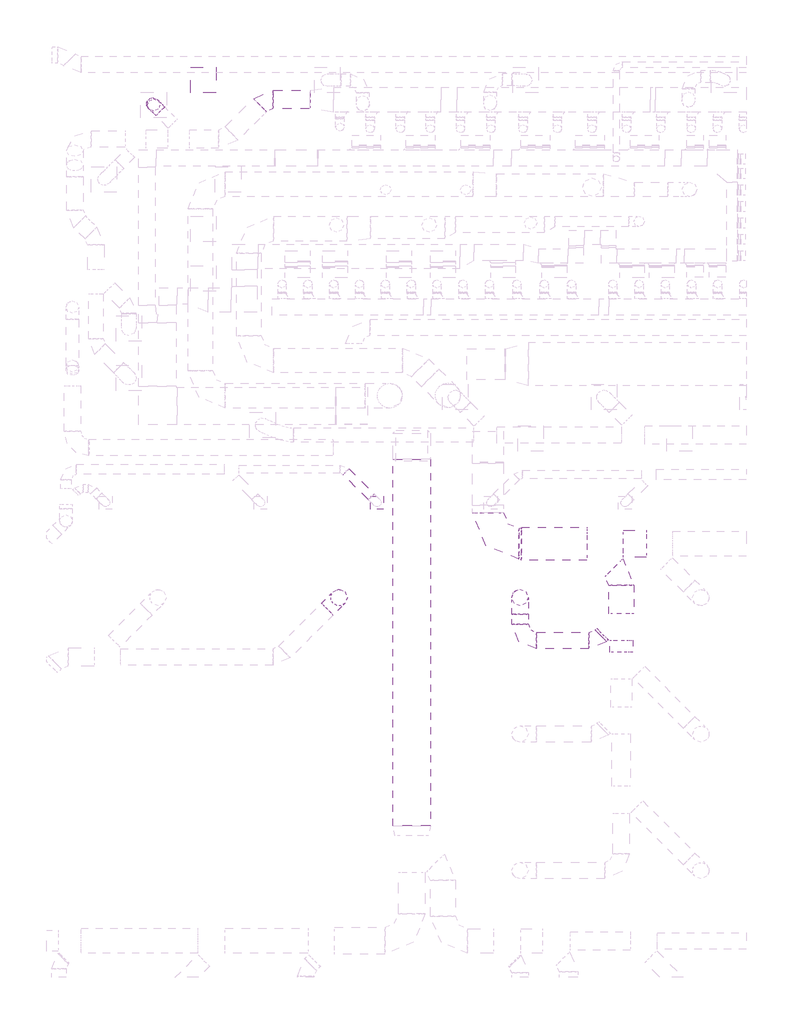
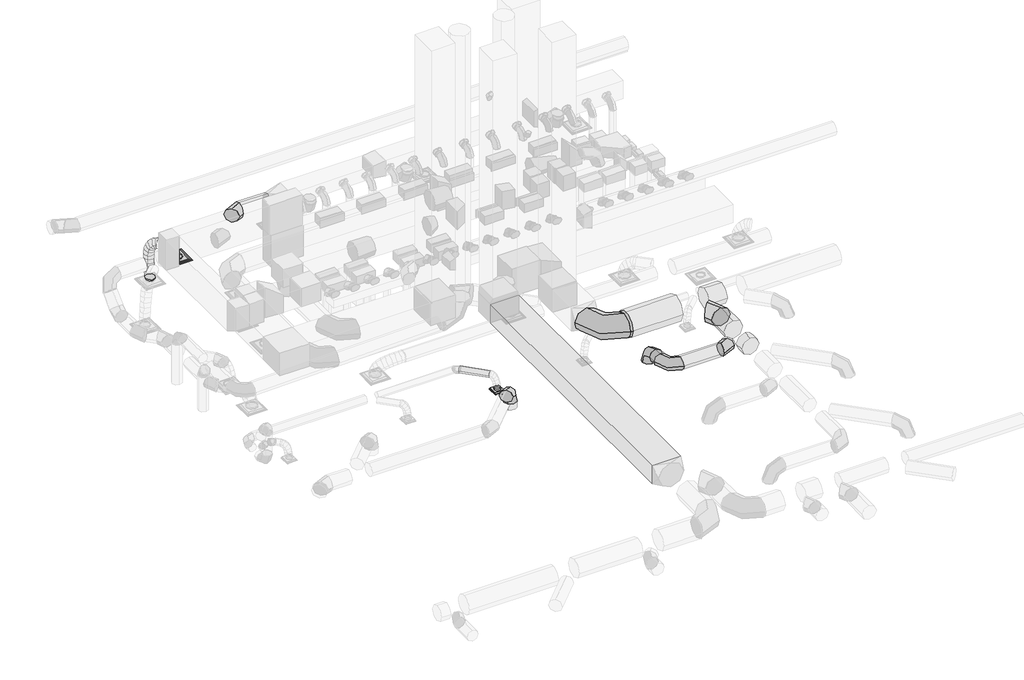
# One storey, part 17 of 33: 13 duct segments, 9 duct fittings, 2 air terminals.
"""IFC4 building model written with IfcOpenShell, lengths in millimetres."""

from ifc_helpers import new_model, si_unit, point, frame, frame_2d, origin, place, context, project, spatial, polyline, circle_curve, ellipse_curve, trimmed, segment, composite_curve, outline, extrude, transform, mapped, element, save
from ifc_brep_helpers import plane_surface, cylinder_surface, advanced_brep
from components import air_terminal_7f3dec8e, air_terminal_0721d01d, round_elbow_1_d_30de4f45, round_elbow_1_d_8aca8b6e, round_elbow_1_d_755a5f0f, round_elbow_1_d_6b09a4cd, round_elbow_1_d_d483edfb, round_transition_angle_45_degree_4f060a6f, round_transition_angle_45_degree_e02685fd

model = new_model("IFC4")

# Units and contexts
model_context = context("Model", 3, world=origin())
ifc_project = project(units=[si_unit("LENGTHUNIT", "METRE", prefix="MILLI")], contexts=[model_context])

# Site, building, storey
site = spatial("IfcSite", under=ifc_project)
building = spatial("IfcBuilding", under=site)
storey = spatial("IfcBuildingStorey", under=building, Name="T.O. SLAB - 1ST", Elevation=-25.4)

# Air terminals
placement = place(None, origin())
air_terminal_shape = air_terminal_7f3dec8e(model_context)
element("IfcAirTerminal", 1, ObjectType="Titus-Round_Neck_Return_Diffuser-PAR_Surface_Mount : PAR AA-12_24x24 - CRGT", at=placement, inside=storey, context=model_context, shape_type="MappedRepresentation", body=[
    mapped(air_terminal_shape, transform((13284.2, 30772.0034288, 2717.8), x_axis=(-1.0, 0.0, 0.0), y_axis=(0.0, 1.0, 0.0), z_axis=(0.0, 0.0, -1.0))),
])
air_terminal_2_shape = air_terminal_0721d01d(model_context)
element("IfcAirTerminal", 2, ObjectType="Titus-Round_Neck_Supply_Diffuser-PCS_Surface_Mount : PCS AA-08_12x12", at=placement, inside=storey, context=model_context, shape_type="MappedRepresentation", body=[
    mapped(air_terminal_2_shape, transform((17557.721449, 20392.8311449, 3022.6), x_axis=(1.0, 0.0, 0.0), y_axis=(0.0, -1.0, 0.0), z_axis=(0.0, 0.0, -1.0))),
])

# Duct fittings
round_elbow_1_d_shape = round_elbow_1_d_30de4f45(model_context)
element("IfcDuctFitting", 3, ObjectType="Round Elbow : 1 D", at=placement, inside=storey, context=model_context, shape_type="MappedRepresentation", body=[
    mapped(round_elbow_1_d_shape, transform((22938.3982152, 17003.0211559, 4635.5), x_axis=(1.0, 0.0, 0.0), y_axis=(0.0, 1.0, 0.0), z_axis=(0.0, 0.0, 1.0))),
])
round_elbow_1_d_2_shape = round_elbow_1_d_8aca8b6e(model_context)
element("IfcDuctFitting", 4, ObjectType="Round Elbow : 1 D", at=placement, inside=storey, context=model_context, shape_type="MappedRepresentation", body=[
    mapped(round_elbow_1_d_2_shape, transform((21071.7804612, 18061.9197891, 4635.5), x_axis=(0.0, 0.0, 1.0), y_axis=(0.0, -1.0, 0.0), z_axis=(1.0, 0.0, 0.0))),
])
element("IfcDuctFitting", 5, ObjectType="Round Elbow : 1 D", at=placement, inside=storey, context=model_context, shape_type="MappedRepresentation", body=[
    mapped(round_elbow_1_d_2_shape, transform((21071.7804612, 17003.0211559, 4635.5), x_axis=(0.0, -1.0, 0.0), y_axis=(1.0, 0.0, 0.0), z_axis=(0.0, 0.0, 1.0))),
])
element("IfcDuctFitting", 6, ObjectType="Round Elbow : 1 D", at=placement, inside=storey, context=model_context, shape_type="MappedRepresentation", body=[
    mapped(round_elbow_1_d_2_shape, transform((16621.8175987, 18061.5737715, 4832.35), x_axis=(0.0, 0.0, 1.0), y_axis=(-0.707395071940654, -0.7068183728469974, 0.0), z_axis=(0.7068183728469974, -0.707395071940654, 0.0))),
])
round_elbow_1_d_3_shape = round_elbow_1_d_755a5f0f(model_context)
element("IfcDuctFitting", 7, ObjectType="Round Elbow : 1 D", at=placement, inside=storey, context=model_context, shape_type="MappedRepresentation", body=[
    mapped(round_elbow_1_d_3_shape, transform((23561.0182719, 18618.9835275, 4635.5), x_axis=(0.0, 1.0, 0.0), y_axis=(-1.0, 0.0, 0.0), z_axis=(0.0, 0.0, 1.0))),
])
round_elbow_1_d_4_shape = round_elbow_1_d_6b09a4cd(model_context)
element("IfcDuctFitting", 8, ObjectType="Round Elbow : 1 D", at=placement, inside=storey, context=model_context, shape_type="MappedRepresentation", body=[
    mapped(round_elbow_1_d_4_shape, transform((14811.7361437, 30294.4408687, 4038.6), x_axis=(-1.0, 0.0, 0.0), y_axis=(0.0, -1.0, 0.0), z_axis=(0.0, 0.0, 1.0))),
])
round_elbow_1_d_5_shape = round_elbow_1_d_d483edfb(model_context)
element("IfcDuctFitting", 9, ObjectType="Round Elbow : 1 D", at=placement, inside=storey, context=model_context, shape_type="MappedRepresentation", body=[
    mapped(round_elbow_1_d_5_shape, transform((20284.198873, 19383.49798, 4635.5), x_axis=(0.002214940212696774, -0.9999975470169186, 0.0), y_axis=(0.9999975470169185, 0.0022149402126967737, 0.0), z_axis=(0.0, 0.0, 0.9999999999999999))),
])
round_transition_angle_45_degree_shape = round_transition_angle_45_degree_4f060a6f(model_context)
element("IfcDuctFitting", 10, ObjectType="Round Transition - Angle : 45 Degree", at=placement, inside=storey, context=model_context, shape_type="MappedRepresentation", body=[
    mapped(round_transition_angle_45_degree_shape, transform((12065.0, 30162.4034288, 2806.7), x_axis=(0.0, 0.0, 1.0), y_axis=(-1.0, 0.0, 0.0), z_axis=(0.0, -1.0, 0.0))),
])
round_transition_angle_45_degree_2_shape = round_transition_angle_45_degree_e02685fd(model_context)
element("IfcDuctFitting", 11, ObjectType="Round Transition - Angle : 45 Degree", at=placement, inside=storey, context=model_context, shape_type="MappedRepresentation", body=[
    mapped(round_transition_angle_45_degree_2_shape, transform((21105.8339781, 19383.49798, 4635.5), x_axis=(-1.0, 0.0, 0.0), y_axis=(0.0, -1.0, 0.0), z_axis=(0.0, 0.0, 1.0))),
])

# Duct segments
element("IfcDuctSegment", 12, ObjectType="Flex - Round", at=placement, inside=storey, context=model_context, shape_type="AdvancedBrep", body=[
    advanced_brep(
    [(12120.9902656, 29899.8088333, 4038.6), (12228.753339, 30007.5719068, 3886.2), (12336.5164125, 30115.3349802, 4038.6), (12228.753339, 30007.5719068, 4191.0), (12100.6767842, 29920.1223147, 4038.6), (12223.0092314, 30013.3160144, 3886.2), (12315.9671739, 30135.8842188, 4038.6), (12193.6347266, 30042.6905192, 4191.0), (11958.0746558, 30053.8090884, 2868.0210245), (11956.4056596, 30269.328773, 2868.0210245), (12171.9253442, 30270.9977692, 2868.0210245), (12173.5943404, 30055.4780846, 2868.0210245), (12054.2251229, 29966.3673415, 4020.3948839), (12209.6132642, 30026.6523912, 3880.9499157), (12268.9933603, 30182.6490751, 4020.1902445), (12113.605219, 30122.3640254, 4159.6352127), (12004.7516364, 30015.2739159, 3969.1833958), (12193.1505036, 30042.9265066, 3863.908819), (12219.0222988, 30232.0475229, 3968.4637014), (12030.6234315, 30204.3949323, 4073.7382782), (11970.2578037, 30048.9196536, 3890.0311923), (12177.1303669, 30058.5527585, 3827.1477801), (12184.2683386, 30265.9469924, 3888.7145893), (11977.3957754, 30256.3138875, 3951.5980015), (11948.4489267, 30069.6780759, 3787.9664381), (12161.8678492, 30073.0801359, 3755.7197503), (12162.3792865, 30286.781728, 3786.2746188), (11948.960364, 30283.379668, 3818.5213066), (11937.0597275, 30079.8950859, 3668.1793872), (12152.3298222, 30081.6364985, 3655.4025895), (12150.9735287, 30297.0135924, 3666.313411), (11935.703434, 30295.2721798, 3679.0902087), (11933.7906761, 30081.951021, 3535.8790858), (12149.3588254, 30083.5049844, 3535.1647204), (12147.7037036, 30299.0700141, 3533.9817952), (11932.1355543, 30297.5160507, 3534.6961606), (11936.3265686, 30078.2417465, 3396.2606984), (12151.7643639, 30079.9863799, 3402.7232179), (12150.2381235, 30295.3628936, 3394.444482), (11934.8003282, 30293.6182601, 3387.9819625), (11942.3469201, 30071.1683016, 3254.5056139), (12157.6327504, 30073.0914821, 3264.5462998), (12156.2503819, 30288.2989574, 3252.8799577), (11940.9645516, 30286.3757768, 3242.8392718), (11949.5293192, 30063.1336139, 3115.7817209), (12164.7949583, 30065.0793815, 3126.2123858), (12163.4159984, 30280.2830437, 3114.480209), (11948.1503593, 30278.3372762, 3104.0495441), (11955.5493852, 30056.5426659, 2985.2419247), (12170.9584518, 30058.3314049, 2992.562494), (12169.4124623, 30273.7179361, 2984.4522059), (11954.0033957, 30271.9291971, 2977.1316367), (11958.0746558, 30053.8090884, 2872.980852), (12173.5943404, 30055.4780846, 2875.3838889), (12171.9253442, 30270.9977692, 2872.7418712), (11956.4056596, 30269.328773, 2870.3388343)],
    [
        (0, 1, circle_curve(frame((12228.753339, 30007.5719068, 4038.6), z_axis=(0.7071067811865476, -0.7071067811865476, 0.0), x_axis=(-0.7071067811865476, -0.7071067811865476, 0.0)), 152.4)),
        (1, 2, circle_curve(frame((12228.753339, 30007.5719068, 4038.6), z_axis=(0.7071067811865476, -0.7071067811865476, 0.0), x_axis=(-0.7071067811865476, -0.7071067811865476, 0.0)), 152.4)),
        (2, 3, circle_curve(frame((12228.753339, 30007.5719068, 4038.6), z_axis=(0.7071067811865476, -0.7071067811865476, 0.0), x_axis=(-0.7071067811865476, -0.7071067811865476, 0.0)), 152.4)),
        (3, 0, circle_curve(frame((12228.753339, 30007.5719068, 4038.6), z_axis=(0.7071067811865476, -0.7071067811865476, 0.0), x_axis=(-0.7071067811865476, -0.7071067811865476, 0.0)), 152.4)),
        (0, 4),
        (4, 5, ellipse_curve(frame((12208.321979, 30028.0032668, 4038.6), z_axis=(0.701395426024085, -0.6998626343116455, 0.13504350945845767), x_axis=(0.08987025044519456, -0.10111626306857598, -0.990807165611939)), 153.8090328, 152.4)),
        (5, 1),
        (5, 6, ellipse_curve(frame((12208.321979, 30028.0032668, 4038.6), z_axis=(0.701395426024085, -0.6998626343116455, 0.13504350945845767), x_axis=(0.08987025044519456, -0.10111626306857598, -0.990807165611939)), 153.8090328, 152.4)),
        (6, 2),
        (6, 7, ellipse_curve(frame((12208.321979, 30028.0032668, 4038.6), z_axis=(0.701395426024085, -0.6998626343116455, 0.13504350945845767), x_axis=(0.08987025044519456, -0.10111626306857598, -0.990807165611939)), 153.8090328, 152.4)),
        (7, 3),
        (7, 4, ellipse_curve(frame((12208.321979, 30028.0032668, 4038.6), z_axis=(0.701395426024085, -0.6998626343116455, 0.13504350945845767), x_axis=(0.08987025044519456, -0.10111626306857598, -0.990807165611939)), 153.8090328, 152.4)),
        (8, 9, circle_curve(frame((12065.0, 30162.4034288, 2868.0210245), z_axis=(0.0, 0.0, -1.0), x_axis=(-0.7016098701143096, -0.7125612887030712, 0.0)), 152.4)),
        (9, 10, circle_curve(frame((12065.0, 30162.4034288, 2868.0210245), z_axis=(0.0, 0.0, -1.0), x_axis=(-0.7016098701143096, -0.7125612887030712, 0.0)), 152.4)),
        (10, 11, circle_curve(frame((12065.0, 30162.4034288, 2868.0210245), z_axis=(0.0, 0.0, -1.0), x_axis=(-0.7016098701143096, -0.7125612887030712, 0.0)), 152.4)),
        (11, 8, circle_curve(frame((12065.0, 30162.4034288, 2868.0210245), z_axis=(0.0, 0.0, -1.0), x_axis=(-0.7016098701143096, -0.7125612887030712, 0.0)), 152.4)),
        (4, 12),
        (12, 13, ellipse_curve(frame((12161.6092416, 30074.5082083, 4020.2925642), z_axis=(0.6383003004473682, -0.6334197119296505, 0.4374382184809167), x_axis=(0.3044516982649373, -0.31419860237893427, -0.899215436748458)), 154.9547857, 152.4)),
        (13, 5),
        (13, 14, ellipse_curve(frame((12161.6092416, 30074.5082083, 4020.2925642), z_axis=(0.6383003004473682, -0.6334197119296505, 0.4374382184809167), x_axis=(0.3044516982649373, -0.31419860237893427, -0.899215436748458)), 154.9547857, 152.4)),
        (14, 6),
        (14, 15, ellipse_curve(frame((12161.6092416, 30074.5082083, 4020.2925642), z_axis=(0.6383003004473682, -0.6334197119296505, 0.4374382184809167), x_axis=(0.3044516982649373, -0.31419860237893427, -0.899215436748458)), 154.9547857, 152.4)),
        (15, 7),
        (15, 12, ellipse_curve(frame((12161.6092416, 30074.5082083, 4020.2925642), z_axis=(0.6383003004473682, -0.6334197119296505, 0.4374382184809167), x_axis=(0.3044516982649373, -0.31419860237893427, -0.899215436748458)), 154.9547857, 152.4)),
        (12, 16),
        (16, 17, ellipse_curve(frame((12111.8869676, 30123.6607194, 3968.8235486), z_axis=(0.48157847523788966, -0.473569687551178, 0.7374374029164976), x_axis=(0.5181162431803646, -0.5248083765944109, -0.6753752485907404)), 155.3348762, 152.4)),
        (17, 13),
        (17, 18, ellipse_curve(frame((12111.8869676, 30123.6607194, 3968.8235486), z_axis=(0.48157847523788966, -0.473569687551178, 0.7374374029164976), x_axis=(0.5181162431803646, -0.5248083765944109, -0.6753752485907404)), 155.3348762, 152.4)),
        (18, 14),
        (18, 19, ellipse_curve(frame((12111.8869676, 30123.6607194, 3968.8235486), z_axis=(0.48157847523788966, -0.473569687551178, 0.7374374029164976), x_axis=(0.5181162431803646, -0.5248083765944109, -0.6753752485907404)), 155.3348762, 152.4)),
        (19, 15),
        (19, 16, ellipse_curve(frame((12111.8869676, 30123.6607194, 3968.8235486), z_axis=(0.48157847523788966, -0.473569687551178, 0.7374374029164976), x_axis=(0.5181162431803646, -0.5248083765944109, -0.6753752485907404)), 155.3348762, 152.4)),
        (16, 20),
        (20, 21, ellipse_curve(frame((12077.2630712, 30157.433323, 3889.3728908), z_axis=(0.2910488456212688, -0.28145604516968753, 0.914370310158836), x_axis=(0.6451879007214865, -0.6479618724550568, -0.40481845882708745)), 153.6971837, 152.4)),
        (21, 17),
        (21, 22, ellipse_curve(frame((12077.2630712, 30157.433323, 3889.3728908), z_axis=(0.2910488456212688, -0.28145604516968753, 0.914370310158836), x_axis=(0.6451879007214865, -0.6479618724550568, -0.40481845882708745)), 153.6971837, 152.4)),
        (22, 18),
        (22, 23, ellipse_curve(frame((12077.2630712, 30157.433323, 3889.3728908), z_axis=(0.2910488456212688, -0.28145604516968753, 0.914370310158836), x_axis=(0.6451879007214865, -0.6479618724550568, -0.40481845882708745)), 153.6971837, 152.4)),
        (23, 19),
        (23, 20, ellipse_curve(frame((12077.2630712, 30157.433323, 3889.3728908), z_axis=(0.2910488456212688, -0.28145604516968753, 0.914370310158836), x_axis=(0.6451879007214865, -0.6479618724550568, -0.40481845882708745)), 153.6971837, 152.4)),
        (20, 24),
        (24, 25, ellipse_curve(frame((12055.4141066, 30178.2299019, 3787.1205284), z_axis=(0.15010851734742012, -0.1402880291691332, 0.9786657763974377), x_axis=(0.6925525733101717, -0.6915213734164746, -0.2053512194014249)), 152.8884747, 152.4)),
        (25, 21),
        (25, 26, ellipse_curve(frame((12055.4141066, 30178.2299019, 3787.1205284), z_axis=(0.15010851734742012, -0.1402880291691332, 0.9786657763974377), x_axis=(0.6925525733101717, -0.6915213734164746, -0.2053512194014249)), 152.8884747, 152.4)),
        (26, 22),
        (26, 27, ellipse_curve(frame((12055.4141066, 30178.2299019, 3787.1205284), z_axis=(0.15010851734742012, -0.1402880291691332, 0.9786657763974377), x_axis=(0.6925525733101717, -0.6915213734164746, -0.2053512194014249)), 152.8884747, 152.4)),
        (27, 23),
        (27, 24, ellipse_curve(frame((12055.4141066, 30178.2299019, 3787.1205284), z_axis=(0.15010851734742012, -0.1402880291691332, 0.9786657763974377), x_axis=(0.6925525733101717, -0.6915213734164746, -0.2053512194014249)), 152.8884747, 152.4)),
        (24, 28),
        (28, 29, ellipse_curve(frame((12044.0166281, 30188.4543391, 3667.2463991), z_axis=(0.059577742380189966, -0.05013018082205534, 0.9969641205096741), x_axis=(0.7077202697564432, -0.7022178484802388, -0.0776022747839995)), 152.5846501, 152.4)),
        (29, 25),
        (29, 30, ellipse_curve(frame((12044.0166281, 30188.4543391, 3667.2463991), z_axis=(0.059577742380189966, -0.05013018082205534, 0.9969641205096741), x_axis=(0.7077202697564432, -0.7022178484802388, -0.0776022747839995)), 152.5846501, 152.4)),
        (30, 26),
        (30, 31, ellipse_curve(frame((12044.0166281, 30188.4543391, 3667.2463991), z_axis=(0.059577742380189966, -0.05013018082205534, 0.9969641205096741), x_axis=(0.7077202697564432, -0.7022178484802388, -0.0776022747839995)), 152.5846501, 152.4)),
        (31, 27),
        (31, 28, ellipse_curve(frame((12044.0166281, 30188.4543391, 3667.2463991), z_axis=(0.059577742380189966, -0.05013018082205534, 0.9969641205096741), x_axis=(0.7077202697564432, -0.7022178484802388, -0.0776022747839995)), 152.5846501, 152.4)),
        (28, 32),
        (32, 33, ellipse_curve(frame((12040.7471898, 30190.5105175, 3534.9304405), z_axis=(0.003274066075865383, 0.005512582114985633, 0.9999794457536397), x_axis=(0.7134509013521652, -0.7007035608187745, 0.0015268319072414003)), 152.468772, 152.4)),
        (33, 29),
        (33, 34, ellipse_curve(frame((12040.7471898, 30190.5105175, 3534.9304405), z_axis=(0.003274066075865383, 0.005512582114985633, 0.9999794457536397), x_axis=(0.7134509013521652, -0.7007035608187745, 0.0015268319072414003)), 152.468772, 152.4)),
        (34, 30),
        (34, 35, ellipse_curve(frame((12040.7471898, 30190.5105175, 3534.9304405), z_axis=(0.003274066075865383, 0.005512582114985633, 0.9999794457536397), x_axis=(0.7134509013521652, -0.7007035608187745, 0.0015268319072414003)), 152.468772, 152.4)),
        (35, 31),
        (35, 32, ellipse_curve(frame((12040.7471898, 30190.5105175, 3534.9304405), z_axis=(0.003274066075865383, 0.005512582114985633, 0.9999794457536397), x_axis=(0.7134509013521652, -0.7007035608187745, 0.0015268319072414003)), 152.468772, 152.4)),
        (32, 36),
        (36, 37, ellipse_curve(frame((12043.2823461, 30186.80232, 3395.3525902), z_axis=(-0.030270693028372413, 0.03817827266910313, 0.99881234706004), x_axis=(0.7208103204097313, -0.6914492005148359, 0.04827509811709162)), 152.4215225, 152.4)),
        (37, 33),
        (37, 38, ellipse_curve(frame((12043.2823461, 30186.80232, 3395.3525902), z_axis=(-0.030270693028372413, 0.03817827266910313, 0.99881234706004), x_axis=(0.7208103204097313, -0.6914492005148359, 0.04827509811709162)), 152.4215225, 152.4)),
        (38, 34),
        (38, 39, ellipse_curve(frame((12043.2823461, 30186.80232, 3395.3525902), z_axis=(-0.030270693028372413, 0.03817827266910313, 0.99881234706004), x_axis=(0.7208103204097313, -0.6914492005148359, 0.04827509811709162)), 152.4215225, 152.4)),
        (39, 35),
        (39, 36, ellipse_curve(frame((12043.2823461, 30186.80232, 3395.3525902), z_axis=(-0.030270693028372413, 0.03817827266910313, 0.99881234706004), x_axis=(0.7208103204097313, -0.6914492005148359, 0.04827509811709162)), 152.4215225, 152.4)),
        (36, 40),
        (40, 41, ellipse_curve(frame((12049.298651, 30179.7336295, 3253.6927858), z_axis=(-0.04700010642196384, 0.053769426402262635, 0.9974466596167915), x_axis=(0.7560507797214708, -0.6506830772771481, 0.07070184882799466)), 152.4028455, 152.4)),
        (41, 37),
        (41, 42, ellipse_curve(frame((12049.298651, 30179.7336295, 3253.6927858), z_axis=(-0.04700010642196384, 0.053769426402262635, 0.9974466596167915), x_axis=(0.7560507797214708, -0.6506830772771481, 0.07070184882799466)), 152.4028455, 152.4)),
        (42, 38),
        (42, 43, ellipse_curve(frame((12049.298651, 30179.7336295, 3253.6927858), z_axis=(-0.04700010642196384, 0.053769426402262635, 0.9974466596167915), x_axis=(0.7560507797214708, -0.6506830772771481, 0.07070184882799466)), 152.4028455, 152.4)),
        (43, 39),
        (43, 40, ellipse_curve(frame((12049.298651, 30179.7336295, 3253.6927858), z_axis=(-0.04700010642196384, 0.053769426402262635, 0.9974466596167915), x_axis=(0.7560507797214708, -0.6506830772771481, 0.07070184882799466)), 152.4028455, 152.4)),
        (40, 44),
        (44, 45, ellipse_curve(frame((12056.4726588, 30171.7083288, 3115.130965), z_axis=(-0.048814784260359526, 0.05405902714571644, 0.9973438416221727), x_axis=(-0.6039698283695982, 0.793695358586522, -0.07258184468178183)), 152.4016436, 152.4)),
        (45, 41),
        (45, 46, ellipse_curve(frame((12056.4726588, 30171.7083288, 3115.130965), z_axis=(-0.048814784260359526, 0.05405902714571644, 0.9973438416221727), x_axis=(-0.6039698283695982, 0.793695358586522, -0.07258184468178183)), 152.4016436, 152.4)),
        (46, 42),
        (46, 47, ellipse_curve(frame((12056.4726588, 30171.7083288, 3115.130965), z_axis=(-0.048814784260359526, 0.05405902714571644, 0.9973438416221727), x_axis=(-0.6039698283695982, 0.793695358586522, -0.07258184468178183)), 152.4016436, 152.4)),
        (47, 43),
        (47, 44, ellipse_curve(frame((12056.4726588, 30171.7083288, 3115.130965), z_axis=(-0.048814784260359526, 0.05405902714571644, 0.9973438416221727), x_axis=(-0.6039698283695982, 0.793695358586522, -0.07258184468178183)), 152.4016436, 152.4)),
        (44, 48),
        (48, 49, ellipse_curve(frame((12062.4809237, 30165.130301, 2984.8470653), z_axis=(-0.03425105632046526, 0.037360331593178, 0.9987147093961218), x_axis=(-0.6695979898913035, 0.7409923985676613, -0.05068330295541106)), 152.4235234, 152.4)),
        (49, 45),
        (49, 50, ellipse_curve(frame((12062.4809237, 30165.130301, 2984.8470653), z_axis=(-0.03425105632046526, 0.037360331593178, 0.9987147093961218), x_axis=(-0.6695979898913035, 0.7409923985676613, -0.05068330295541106)), 152.4235234, 152.4)),
        (50, 46),
        (50, 51, ellipse_curve(frame((12062.4809237, 30165.130301, 2984.8470653), z_axis=(-0.03425105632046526, 0.037360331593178, 0.9987147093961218), x_axis=(-0.6695979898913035, 0.7409923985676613, -0.05068330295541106)), 152.4235234, 152.4)),
        (51, 47),
        (51, 48, ellipse_curve(frame((12062.4809237, 30165.130301, 2984.8470653), z_axis=(-0.03425105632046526, 0.037360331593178, 0.9987147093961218), x_axis=(-0.6695979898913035, 0.7409923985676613, -0.05068330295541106)), 152.4235234, 152.4)),
        (48, 52),
        (52, 53, ellipse_curve(frame((12065.0, 30162.4034288, 2872.8613616), z_axis=(-0.011242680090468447, 0.012170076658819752, 0.999862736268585), x_axis=(-0.678472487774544, 0.7344389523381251, -0.016568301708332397)), 152.4209219, 152.4)),
        (53, 49),
        (53, 54, ellipse_curve(frame((12065.0, 30162.4034288, 2872.8613616), z_axis=(-0.011242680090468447, 0.012170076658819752, 0.999862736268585), x_axis=(-0.678472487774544, 0.7344389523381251, -0.016568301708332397)), 152.4209219, 152.4)),
        (54, 50),
        (54, 55, ellipse_curve(frame((12065.0, 30162.4034288, 2872.8613616), z_axis=(-0.011242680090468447, 0.012170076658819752, 0.999862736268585), x_axis=(-0.678472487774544, 0.7344389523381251, -0.016568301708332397)), 152.4209219, 152.4)),
        (55, 51),
        (55, 52, ellipse_curve(frame((12065.0, 30162.4034288, 2872.8613616), z_axis=(-0.011242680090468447, 0.012170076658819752, 0.999862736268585), x_axis=(-0.678472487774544, 0.7344389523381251, -0.016568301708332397)), 152.4209219, 152.4)),
        (52, 8),
        (11, 53),
        (10, 54),
        (9, 55),
    ],
    [
        plane_surface(frame((12228.753339, 30007.5719068, 4191.0), z_axis=(0.7071067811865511, -0.707106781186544, 0.0), x_axis=(0.707106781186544, 0.7071067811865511, 0.0))),
        cylinder_surface(frame((12228.753339, 30007.5719068, 4038.6), z_axis=(0.7071067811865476, -0.7071067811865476, 0.0), x_axis=(-0.7071067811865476, -0.7071067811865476, 0.0)), 152.4),
        plane_surface(frame((12065.0, 30010.0034288, 2868.0210245), z_axis=(0.0, 0.0, -1.0), x_axis=(-1.0, 0.0, 0.0))),
        cylinder_surface(frame((12208.321979, 30028.0032668, 4038.6), z_axis=(0.6828332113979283, -0.6797957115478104, 0.2676127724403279), x_axis=(-0.7055863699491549, -0.7086238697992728, 0.0002927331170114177)), 152.4),
        cylinder_surface(frame((12161.6092416, 30074.5082083, 4020.2925642), z_axis=(0.5727196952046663, -0.5661569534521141, 0.5928393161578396), x_axis=(-0.7038098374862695, -0.7103868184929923, 0.0015102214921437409)), 152.4),
        cylinder_surface(frame((12111.8869676, 30123.6607194, 3968.8235486), z_axis=(0.3722394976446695, -0.36308729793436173, 0.8541694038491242), x_axis=(-0.7024534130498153, -0.7117206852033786, 0.0035873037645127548)), 152.4),
        cylinder_surface(frame((12077.2630712, 30157.433323, 3889.3728908), z_axis=(0.2049453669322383, -0.19507388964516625, 0.9591368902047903), x_axis=(-0.7019586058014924, -0.7121991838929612, 0.005141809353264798)), 152.4),
        cylinder_surface(frame((12055.4141066, 30178.2299019, 3787.1205284), z_axis=(0.09431248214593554, -0.08460573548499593, 0.9919410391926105), x_axis=(-0.7018310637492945, -0.712318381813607, 0.005973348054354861)), 152.4),
        cylinder_surface(frame((12044.0166281, 30188.4543391, 3667.2463991), z_axis=(0.024698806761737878, -0.015533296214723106, 0.9995742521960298), x_axis=(-0.7018132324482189, -0.7123333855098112, 0.006271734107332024)), 152.4),
        cylinder_surface(frame((12040.7471898, 30190.5105175, 3534.9304405), z_axis=(-0.018153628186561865, 0.026553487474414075, 0.9994825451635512), x_axis=(-0.7018135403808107, -0.7123339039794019, 0.006177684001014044)), 152.4),
        cylinder_surface(frame((12043.2823461, 30186.80232, 3395.3525902), z_axis=(-0.04237920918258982, 0.049792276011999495, 0.9978600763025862), x_axis=(-0.7018002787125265, -0.7123506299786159, 0.005740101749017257)), 152.4),
        cylinder_surface(frame((12049.298651, 30179.7336295, 3253.6927858), z_axis=(-0.051619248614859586, 0.05774456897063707, 0.996995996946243), x_axis=(-0.7017619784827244, -0.7123944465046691, 0.0049272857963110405)), 152.4),
        cylinder_surface(frame((12056.4726588, 30171.7083288, 3115.130965), z_axis=(-0.04600926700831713, 0.05037231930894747, 0.9976701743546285), x_axis=(-0.7016976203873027, -0.712465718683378, 0.003612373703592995)), 152.4),
        cylinder_surface(frame((12062.4809237, 30165.130301, 2984.8470653), z_axis=(-0.022482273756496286, 0.02433681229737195, 0.9994509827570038), x_axis=(-0.7016274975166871, -0.7125422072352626, 0.001567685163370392)), 152.4),
        cylinder_surface(frame((12065.0, 30162.4034288, 2872.8613616), z_axis=(0.0, 0.0, 1.0), x_axis=(-0.7016098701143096, -0.7125612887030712, 0.0)), 152.4),
    ],
    [
        (0, [[1, 2, 3, 4]]),
        (1, [[-1, 5, 6, 7]]),
        (1, [[-2, -7, 8, 9]]),
        (1, [[-3, -9, 10, 11]]),
        (1, [[-4, -11, 12, -5]]),
        (2, [[13, 14, 15, 16]]),
        (3, [[-6, 17, 18, 19]]),
        (3, [[-8, -19, 20, 21]]),
        (3, [[-10, -21, 22, 23]]),
        (3, [[-12, -23, 24, -17]]),
        (4, [[-18, 25, 26, 27]]),
        (4, [[-20, -27, 28, 29]]),
        (4, [[-22, -29, 30, 31]]),
        (4, [[-24, -31, 32, -25]]),
        (5, [[-26, 33, 34, 35]]),
        (5, [[-28, -35, 36, 37]]),
        (5, [[-30, -37, 38, 39]]),
        (5, [[-32, -39, 40, -33]]),
        (6, [[-34, 41, 42, 43]]),
        (6, [[-36, -43, 44, 45]]),
        (6, [[-38, -45, 46, 47]]),
        (6, [[-40, -47, 48, -41]]),
        (7, [[-42, 49, 50, 51]]),
        (7, [[-44, -51, 52, 53]]),
        (7, [[-46, -53, 54, 55]]),
        (7, [[-48, -55, 56, -49]]),
        (8, [[-50, 57, 58, 59]]),
        (8, [[-52, -59, 60, 61]]),
        (8, [[-54, -61, 62, 63]]),
        (8, [[-56, -63, 64, -57]]),
        (9, [[-58, 65, 66, 67]]),
        (9, [[-60, -67, 68, 69]]),
        (9, [[-62, -69, 70, 71]]),
        (9, [[-64, -71, 72, -65]]),
        (10, [[-66, 73, 74, 75]]),
        (10, [[-68, -75, 76, 77]]),
        (10, [[-70, -77, 78, 79]]),
        (10, [[-72, -79, 80, -73]]),
        (11, [[-74, 81, 82, 83]]),
        (11, [[-76, -83, 84, 85]]),
        (11, [[-78, -85, 86, 87]]),
        (11, [[-80, -87, 88, -81]]),
        (12, [[-82, 89, 90, 91]]),
        (12, [[-84, -91, 92, 93]]),
        (12, [[-86, -93, 94, 95]]),
        (12, [[-88, -95, 96, -89]]),
        (13, [[-90, 97, 98, 99]]),
        (13, [[-92, -99, 100, 101]]),
        (13, [[-94, -101, 102, 103]]),
        (13, [[-96, -103, 104, -97]]),
        (14, [[-98, 105, -16, 106]]),
        (14, [[-100, -106, -15, 107]]),
        (14, [[-102, -107, -14, 108]]),
        (14, [[-104, -108, -13, -105]]),
    ],
),
])
element("IfcDuctSegment", 13, ObjectType="Mitered Elbows / Taps", at=placement, inside=storey, context=model_context, shape_type="SweptSolid", body=[
    extrude(outline(polyline([(18866.6301182, 12453.8724624), (17952.2301182, 12453.8724624), (17952.2301182, 21465.093068), (18866.6301182, 21465.093068), (18866.6301182, 12453.8724624)])), frame((0.0, 0.0, 4521.2), z_axis=(0.0, 0.0, 1.0), x_axis=(1.0, 0.0, 0.0)), (0.0, 0.0, 1.0), 609.6),
])
element("IfcDuctSegment", 14, ObjectType="Taps", at=placement, inside=storey, context=model_context, shape_type="SweptSolid", body=[
    extrude(outline(composite_curve([segment(trimmed(circle_curve(frame_2d((19383.49798, 4635.5)), 406.4), [point((19789.89798, 4635.5))], [point((19383.49798, 4229.1))], False, "CARTESIAN"), True, "CONTINUOUS"), segment(trimmed(circle_curve(frame_2d((19383.49798, 4635.5)), 406.4), [point((19383.49798, 4229.1))], [point((18977.09798, 4635.5))], False, "CARTESIAN"), True, "CONTINUOUS"), segment(trimmed(circle_curve(frame_2d((19383.49798, 4635.5)), 406.4), [point((18977.09798, 4635.5))], [point((19383.49798, 5041.9))], False, "CARTESIAN"), True, "CONTINUOUS"), segment(trimmed(circle_curve(frame_2d((19383.49798, 4635.5)), 406.4), [point((19383.49798, 5041.9))], [point((19789.89798, 4635.5))], False, "CARTESIAN"), True, "CONTINUOUS")], self_intersect=False)), frame((21105.8339781, 0.0, 0.0), z_axis=(1.0, 0.0, 0.0), x_axis=(0.0, 1.0, 0.0)), (0.0, 0.0, 1.0), 1610.8979726),
])
element("IfcDuctSegment", 15, ObjectType="Taps", at=placement, inside=storey, context=model_context, shape_type="SweptSolid", body=[
    extrude(outline(composite_curve([segment(trimmed(circle_curve(frame_2d((19383.49798, 4635.5)), 330.2), [point((19713.69798, 4635.5))], [point((19383.49798, 4305.3))], False, "CARTESIAN"), True, "CONTINUOUS"), segment(trimmed(circle_curve(frame_2d((19383.49798, 4635.5)), 330.2), [point((19383.49798, 4305.3))], [point((19053.29798, 4635.5))], False, "CARTESIAN"), True, "CONTINUOUS"), segment(trimmed(circle_curve(frame_2d((19383.49798, 4635.5)), 330.2), [point((19053.29798, 4635.5))], [point((19383.49798, 4965.7))], False, "CARTESIAN"), True, "CONTINUOUS"), segment(trimmed(circle_curve(frame_2d((19383.49798, 4635.5)), 330.2), [point((19383.49798, 4965.7))], [point((19713.69798, 4635.5))], False, "CARTESIAN"), True, "CONTINUOUS")], self_intersect=False)), frame((23612.8756881, 0.0, 0.0), z_axis=(1.0, 0.0, 0.0), x_axis=(0.0, 1.0, 0.0)), (0.0, 0.0, 1.0), 563.9151569),
])
element("IfcDuctSegment", 16, ObjectType="Taps", at=placement, inside=storey, context=model_context, shape_type="SweptSolid", body=[
    extrude(outline(composite_curve([segment(trimmed(circle_curve(frame_2d((4635.5, 23561.0182719)), 279.4), [point((4635.5, 23281.6182719))], [point((4356.1, 23561.0182719))], False, "CARTESIAN"), True, "CONTINUOUS"), segment(trimmed(circle_curve(frame_2d((4635.5, 23561.0182719)), 279.4), [point((4356.1, 23561.0182719))], [point((4635.5, 23840.4182719))], False, "CARTESIAN"), True, "CONTINUOUS"), segment(trimmed(circle_curve(frame_2d((4635.5, 23561.0182719)), 279.4), [point((4635.5, 23840.4182719))], [point((4914.9, 23561.0182719))], False, "CARTESIAN"), True, "CONTINUOUS"), segment(trimmed(circle_curve(frame_2d((4635.5, 23561.0182719)), 279.4), [point((4914.9, 23561.0182719))], [point((4635.5, 23281.6182719))], False, "CARTESIAN"), True, "CONTINUOUS")], self_intersect=False)), frame((0.0, 16721.3452541, 0.0), z_axis=(0.0, 1.0, 0.0), x_axis=(0.0, 0.0, 1.0)), (0.0, 0.0, 1.0), 284.7574385),
])
element("IfcDuctSegment", 17, ObjectType="Taps", at=placement, inside=storey, context=model_context, shape_type="SweptSolid", body=[
    extrude(outline(composite_curve([segment(trimmed(circle_curve(frame_2d((4635.5, 23561.0182719)), 304.8), [point((4635.5, 23256.2182719))], [point((4330.7, 23561.0182719))], False, "CARTESIAN"), True, "CONTINUOUS"), segment(trimmed(circle_curve(frame_2d((4635.5, 23561.0182719)), 304.8), [point((4330.7, 23561.0182719))], [point((4635.5, 23865.8182719))], False, "CARTESIAN"), True, "CONTINUOUS"), segment(trimmed(circle_curve(frame_2d((4635.5, 23561.0182719)), 304.8), [point((4635.5, 23865.8182719))], [point((4940.3, 23561.0182719))], False, "CARTESIAN"), True, "CONTINUOUS"), segment(trimmed(circle_curve(frame_2d((4635.5, 23561.0182719)), 304.8), [point((4940.3, 23561.0182719))], [point((4635.5, 23256.2182719))], False, "CARTESIAN"), True, "CONTINUOUS")], self_intersect=False)), frame((0.0, 17660.9797325, 0.0), z_axis=(0.0, 1.0, 0.0), x_axis=(0.0, 0.0, 1.0)), (0.0, 0.0, 1.0), 705.4992074),
])
element("IfcDuctSegment", 18, ObjectType="Taps", at=placement, inside=storey, context=model_context, shape_type="SweptSolid", body=[
    extrude(outline(composite_curve([segment(trimmed(circle_curve(frame_2d((0.0, -203.2)), 203.2), [point((-203.2000001, -203.2))], [point((0.0, 0.0))], False, "CARTESIAN"), True, "CONTINUOUS"), segment(trimmed(circle_curve(frame_2d((0.0, -203.2)), 203.2), [point((0.0, 0.0))], [point((203.1999999, -203.2))], False, "CARTESIAN"), True, "CONTINUOUS"), segment(trimmed(circle_curve(frame_2d((0.0, -203.2)), 203.2), [point((203.1999999, -203.2))], [point((0.0, -406.4))], False, "CARTESIAN"), True, "CONTINUOUS"), segment(trimmed(circle_curve(frame_2d((0.0, -203.2)), 203.2), [point((0.0, -406.4))], [point((-203.2000001, -203.2))], False, "CARTESIAN"), True, "CONTINUOUS")], self_intersect=False)), frame((23057.4300194, 17122.05296, 4432.3), z_axis=(0.707106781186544, 0.7071067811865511, 0.0), x_axis=(0.7071067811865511, -0.707106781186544, 0.0)), (0.0, 0.0, 1.0), 60.2636083),
])
element("IfcDuctSegment", 19, ObjectType="Taps", at=placement, inside=storey, context=model_context, shape_type="SweptSolid", body=[
    extrude(outline(composite_curve([segment(trimmed(circle_curve(frame_2d((17003.0211559, 4635.5)), 203.2), [point((17206.2211559, 4635.5))], [point((17003.0211559, 4432.3))], False, "CARTESIAN"), True, "CONTINUOUS"), segment(trimmed(circle_curve(frame_2d((17003.0211559, 4635.5)), 203.2), [point((17003.0211559, 4432.3))], [point((16799.8211559, 4635.5))], False, "CARTESIAN"), True, "CONTINUOUS"), segment(trimmed(circle_curve(frame_2d((17003.0211559, 4635.5)), 203.2), [point((16799.8211559, 4635.5))], [point((17003.0211559, 4838.7))], False, "CARTESIAN"), True, "CONTINUOUS"), segment(trimmed(circle_curve(frame_2d((17003.0211559, 4635.5)), 203.2), [point((17003.0211559, 4838.7))], [point((17206.2211559, 4635.5))], False, "CARTESIAN"), True, "CONTINUOUS")], self_intersect=False)), frame((21478.1804612, 0.0, 0.0), z_axis=(1.0, 0.0, 0.0), x_axis=(0.0, 1.0, 0.0)), (0.0, 0.0, 1.0), 1291.8813623),
])
element("IfcDuctSegment", 20, ObjectType="Taps", at=placement, inside=storey, context=model_context, shape_type="SweptSolid", body=[
    extrude(outline(composite_curve([segment(trimmed(circle_curve(frame_2d((4635.5, 21071.7804612)), 203.2), [point((4635.5, 20868.5804612))], [point((4432.3, 21071.7804612))], False, "CARTESIAN"), True, "CONTINUOUS"), segment(trimmed(circle_curve(frame_2d((4635.5, 21071.7804612)), 203.2), [point((4432.3, 21071.7804612))], [point((4635.5, 21274.9804612))], False, "CARTESIAN"), True, "CONTINUOUS"), segment(trimmed(circle_curve(frame_2d((4635.5, 21071.7804612)), 203.2), [point((4635.5, 21274.9804612))], [point((4838.7, 21071.7804612))], False, "CARTESIAN"), True, "CONTINUOUS"), segment(trimmed(circle_curve(frame_2d((4635.5, 21071.7804612)), 203.2), [point((4838.7, 21071.7804612))], [point((4635.5, 20868.5804612))], False, "CARTESIAN"), True, "CONTINUOUS")], self_intersect=False)), frame((0.0, 17409.4211559, 0.0), z_axis=(0.0, 1.0, 0.0), x_axis=(0.0, 0.0, 1.0)), (0.0, 0.0, 1.0), 246.0986332),
])
element("IfcDuctSegment", 21, ObjectType="Taps", at=placement, inside=storey, context=model_context, shape_type="SweptSolid", body=[
    extrude(outline(composite_curve([segment(trimmed(circle_curve(frame_2d((21071.7804612, 18061.9197891)), 203.2), [point((20868.5804612, 18061.9197891))], [point((21071.7804612, 18265.1197891))], False, "CARTESIAN"), True, "CONTINUOUS"), segment(trimmed(circle_curve(frame_2d((21071.7804612, 18061.9197891)), 203.2), [point((21071.7804612, 18265.1197891))], [point((21274.9804612, 18061.9197891))], False, "CARTESIAN"), True, "CONTINUOUS"), segment(trimmed(circle_curve(frame_2d((21071.7804612, 18061.9197891)), 203.2), [point((21274.9804612, 18061.9197891))], [point((21071.7804612, 17858.7197891))], False, "CARTESIAN"), True, "CONTINUOUS"), segment(trimmed(circle_curve(frame_2d((21071.7804612, 18061.9197891)), 203.2), [point((21071.7804612, 17858.7197891))], [point((20868.5804612, 18061.9197891))], False, "CARTESIAN"), True, "CONTINUOUS")], self_intersect=False)), frame((0.0, 0.0, 4216.4), z_axis=(0.0, 0.0, 1.0), x_axis=(1.0, 0.0, 0.0)), (0.0, 0.0, 1.0), 12.7),
])
element("IfcDuctSegment", 22, ObjectType="Taps", at=placement, inside=storey, context=model_context, shape_type="SweptSolid", body=[
    extrude(outline(composite_curve([segment(trimmed(circle_curve(frame_2d((16621.7004612, 18061.6910045)), 203.2), [point((16765.3259546, 17917.9483259))], [point((16477.9577826, 17918.0655112))], False, "CARTESIAN"), True, "CONTINUOUS"), segment(trimmed(circle_curve(frame_2d((16621.7004612, 18061.6910045)), 203.2), [point((16477.9577826, 17918.0655112))], [point((16478.0749679, 18205.4336831))], False, "CARTESIAN"), True, "CONTINUOUS"), segment(trimmed(circle_curve(frame_2d((16621.7004612, 18061.6910045)), 203.2), [point((16478.0749679, 18205.4336831))], [point((16765.4431398, 18205.3164979))], False, "CARTESIAN"), True, "CONTINUOUS"), segment(trimmed(circle_curve(frame_2d((16621.7004612, 18061.6910045)), 203.2), [point((16765.4431398, 18205.3164979))], [point((16765.3259546, 17917.9483259))], False, "CARTESIAN"), True, "CONTINUOUS")], self_intersect=False)), frame((0.0, 0.0, 4216.4), z_axis=(0.0, 0.0, 1.0), x_axis=(1.0, 0.0, 0.0)), (0.0, 0.0, 1.0), 209.55),
])
element("IfcDuctSegment", 23, ObjectType="Taps", at=placement, inside=storey, context=model_context, shape_type="SweptSolid", body=[
    extrude(outline(composite_curve([segment(trimmed(circle_curve(frame_2d((30294.4408687, 4038.6)), 228.6), [point((30523.0408687, 4038.6))], [point((30294.4408687, 3810.0))], False, "CARTESIAN"), True, "CONTINUOUS"), segment(trimmed(circle_curve(frame_2d((30294.4408687, 4038.6)), 228.6), [point((30294.4408687, 3810.0))], [point((30065.8408687, 4038.6))], False, "CARTESIAN"), True, "CONTINUOUS"), segment(trimmed(circle_curve(frame_2d((30294.4408687, 4038.6)), 228.6), [point((30065.8408687, 4038.6))], [point((30294.4408687, 4267.2))], False, "CARTESIAN"), True, "CONTINUOUS"), segment(trimmed(circle_curve(frame_2d((30294.4408687, 4038.6)), 228.6), [point((30294.4408687, 4267.2))], [point((30523.0408687, 4038.6))], False, "CARTESIAN"), True, "CONTINUOUS")], self_intersect=False)), frame((15001.1145844, 0.0, 0.0), z_axis=(1.0, 0.0, 0.0), x_axis=(0.0, 1.0, 0.0)), (0.0, 0.0, 1.0), 907.0762865),
])
element("IfcDuctSegment", 24, ObjectType="Taps", at=placement, inside=storey, context=model_context, shape_type="SweptSolid", body=[
    extrude(outline(composite_curve([segment(trimmed(circle_curve(frame_2d((0.0, -101.6)), 101.6), [point((-101.6, -101.6))], [point((0.0, 0.0))], False, "CARTESIAN"), True, "CONTINUOUS"), segment(trimmed(circle_curve(frame_2d((0.0, -101.6)), 101.6), [point((0.0, 0.0))], [point((101.6, -101.6))], False, "CARTESIAN"), True, "CONTINUOUS"), segment(trimmed(circle_curve(frame_2d((0.0, -101.6)), 101.6), [point((101.6, -101.6))], [point((0.0, -203.2))], False, "CARTESIAN"), True, "CONTINUOUS"), segment(trimmed(circle_curve(frame_2d((0.0, -101.6)), 101.6), [point((0.0, -203.2))], [point((-101.6, -101.6))], False, "CARTESIAN"), True, "CONTINUOUS")], self_intersect=False)), frame((17414.0374273, 20535.373356, 3429.0), z_axis=(-0.7071067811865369, 0.7071067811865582, 0.0), x_axis=(0.7071067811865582, 0.7071067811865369, 0.0)), (0.0, 0.0, 1.0), 877.1908516),
])

save(model, "model.ifc")
